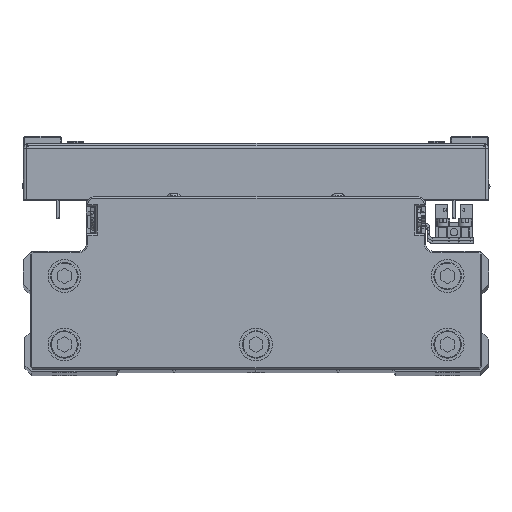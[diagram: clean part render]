
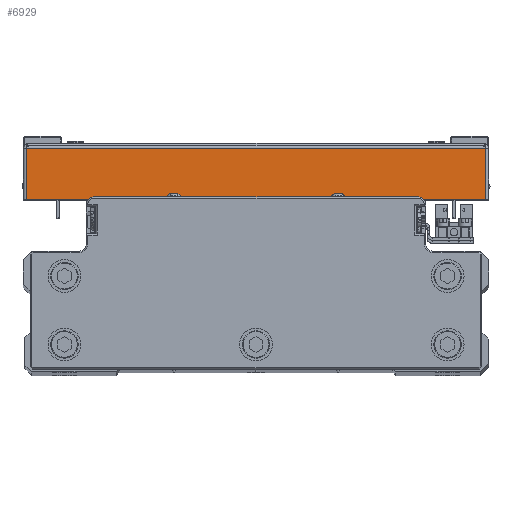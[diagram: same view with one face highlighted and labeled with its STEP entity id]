
A CAD part, top view. The second image highlights one B-rep face of the part: STEP entity #6929.
In plain terms, the highlighted planar face has unit normal (0, 0, 1) as drawn and (1, 0, 0) by its records, which use the part's own axes.
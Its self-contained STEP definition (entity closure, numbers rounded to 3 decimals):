
#2582 = DIRECTION ( 'NONE',  ( 0., 1., 0. ) ) ;
#2917 = VECTOR ( 'NONE', #25135, 1000. ) ;
#6194 = DIRECTION ( 'NONE',  ( 0., 0., 1. ) ) ;
#6929 = ADVANCED_FACE ( 'NONE', ( #16009 ), #29855, .F. ) ;
#7633 = CARTESIAN_POINT ( 'NONE',  ( 110., 1., 83.929 ) ) ;
#7766 = DIRECTION ( 'NONE',  ( 0., 0., 1. ) ) ;
#10418 = EDGE_CURVE ( 'NONE', #36252, #25799, #23437, .T. ) ;
#11257 = EDGE_CURVE ( 'NONE', #40721, #29992, #25023, .T. ) ;
#11323 = CARTESIAN_POINT ( 'NONE',  ( 110., 0., 83.929 ) ) ;
#12636 = DIRECTION ( 'NONE',  ( -1., 0., 0. ) ) ;
#14062 = CARTESIAN_POINT ( 'NONE',  ( 110., 19.5, 83.929 ) ) ;
#16009 = FACE_OUTER_BOUND ( 'NONE', #20852, .T. ) ;
#17041 = EDGE_CURVE ( 'NONE', #36252, #40721, #19843, .T. ) ;
#19535 = ORIENTED_EDGE ( 'NONE', *, *, #24174, .F. ) ;
#19843 = LINE ( 'NONE', #33706, #26287 ) ;
#20852 = EDGE_LOOP ( 'NONE', ( #23517, #43846, #39367, #19535 ) ) ;
#23437 = LINE ( 'NONE', #37301, #34258 ) ;
#23517 = ORIENTED_EDGE ( 'NONE', *, *, #10418, .F. ) ;
#24174 = EDGE_CURVE ( 'NONE', #25799, #29992, #42426, .T. ) ;
#25023 = LINE ( 'NONE', #38863, #41683 ) ;
#25135 = DIRECTION ( 'NONE',  ( 0., 1., 0. ) ) ;
#25799 = VERTEX_POINT ( 'NONE', #7633 ) ;
#26287 = VECTOR ( 'NONE', #2582, 1000. ) ;
#26466 = DIRECTION ( 'NONE',  ( 0., -1., 0. ) ) ;
#29855 = PLANE ( 'NONE',  #40107 ) ;
#29992 = VERTEX_POINT ( 'NONE', #14062 ) ;
#33706 = CARTESIAN_POINT ( 'NONE',  ( 110., 0., -83.929 ) ) ;
#34258 = VECTOR ( 'NONE', #6194, 1000. ) ;
#36252 = VERTEX_POINT ( 'NONE', #43117 ) ;
#37301 = CARTESIAN_POINT ( 'NONE',  ( 110., 1., 85. ) ) ;
#38863 = CARTESIAN_POINT ( 'NONE',  ( 110., 19.5, 0. ) ) ;
#39367 = ORIENTED_EDGE ( 'NONE', *, *, #11257, .T. ) ;
#40107 = AXIS2_PLACEMENT_3D ( 'NONE', #43740, #12636, #26466 ) ;
#40721 = VERTEX_POINT ( 'NONE', #40765 ) ;
#40765 = CARTESIAN_POINT ( 'NONE',  ( 110., 19.5, -83.929 ) ) ;
#41683 = VECTOR ( 'NONE', #7766, 1000. ) ;
#42426 = LINE ( 'NONE', #11323, #2917 ) ;
#43117 = CARTESIAN_POINT ( 'NONE',  ( 110., 1., -83.929 ) ) ;
#43740 = CARTESIAN_POINT ( 'NONE',  ( 110., 0., 0. ) ) ;
#43846 = ORIENTED_EDGE ( 'NONE', *, *, #17041, .T. ) ;
